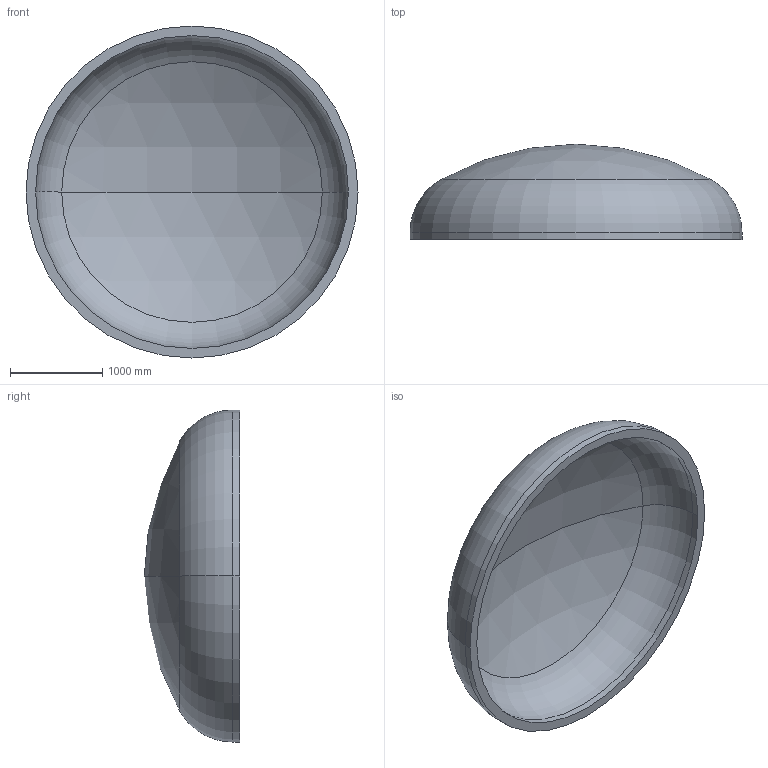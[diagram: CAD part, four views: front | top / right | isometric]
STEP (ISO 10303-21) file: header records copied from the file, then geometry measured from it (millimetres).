
FILE_DESCRIPTION (( 'STEP AP203' ), '1' );
FILE_NAME ('DIN 28013 Korbbogenform_-_Boden DIN 28013 - 3600 x 75 - I - s=104.step', '2016-07-01T20:50:25', ( '' ), ( '' ), 'SwSTEP 2.0', 'SolidWorks 2013', '' );
FILE_SCHEMA (( 'CONFIG_CONTROL_DESIGN' ));
Length unit declared in the file: millimetre
Products named in the file (1): DIN 28013 Korbbogenform_-_Boden DIN 28013 - 3600 x 75 - I - s=104
Bounding box: 3600 x 1033.23 x 3600 mm (x, y, z)
Volume: 1497757806.8 mm3; surface area: 29967910.7 mm2
Topology: 1 solids, 1 shells, 13 faces, 24 edges, 14 vertices
Faces by surface type: torus 4, cylinder 4, sphere 4, plane 1
Entity records: 407 total; most frequent: DIRECTION 72, CARTESIAN_POINT 52, ORIENTED_EDGE 48, AXIS2_PLACEMENT_3D 34, EDGE_CURVE 24, CIRCLE 20, VERTEX_POINT 14, EDGE_LOOP 14
